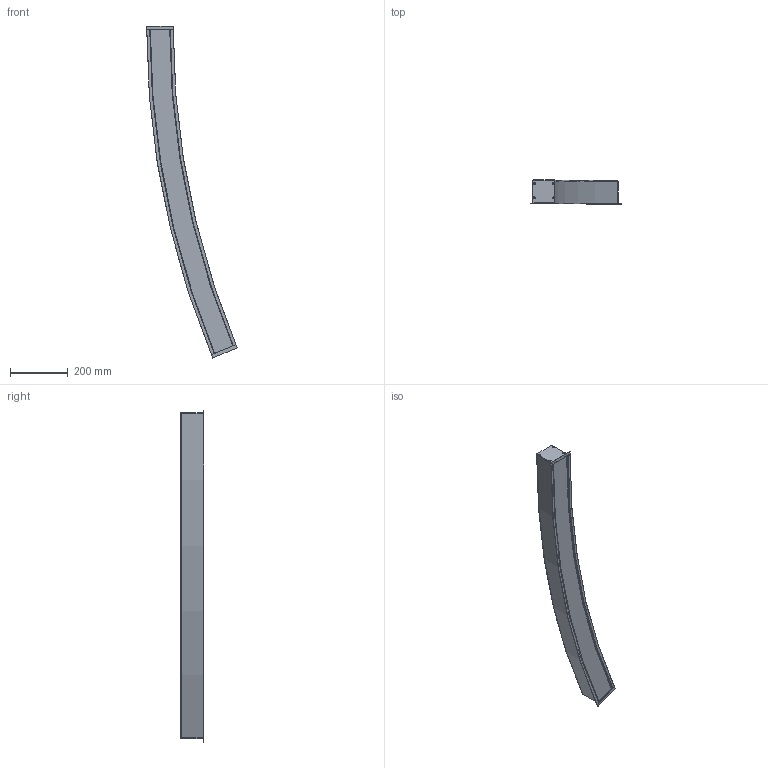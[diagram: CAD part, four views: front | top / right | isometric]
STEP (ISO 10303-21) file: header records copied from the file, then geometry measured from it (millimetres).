
FILE_DESCRIPTION (( 'STEP AP214' ), '1' );
FILE_NAME ('Swerve recessed R2900 22.5Deg.STEP', '2019-04-02T23:09:50', ( 'admin' ), ( 'Hewlett-Packard Company' ), 'SwSTEP 2.0', 'SolidWorks 2017', '' );
FILE_SCHEMA (( 'AUTOMOTIVE_DESIGN' ));
Length unit declared in the file: millimetre
Products named in the file (3): Swerve recessed endcap; Swerve recessed R2900 22.5Deg; Swerve recessed 3D solid model_R2900 22.5Deg
Assembly tree (3 placements, depth 2):
  Swerve recessed R2900 22.5Deg
    Swerve recessed 3D solid model_R2900 22.5Deg
    Swerve recessed endcap  x2
Bounding box: 313.84 x 81.51 x 1150.47 mm (x, y, z)
Volume: 6704817.1 mm3; surface area: 443009.3 mm2
Topology: 3 solids, 3 shells, 101 faces, 269 edges, 174 vertices
Faces by surface type: cone 31, plane 27, cylinder 24, torus 19
Entity records: 2367 total; most frequent: DIRECTION 442, CARTESIAN_POINT 384, ORIENTED_EDGE 374, EDGE_CURVE 187, AXIS2_PLACEMENT_3D 180, VERTEX_POINT 122, CIRCLE 105, VECTOR 82
